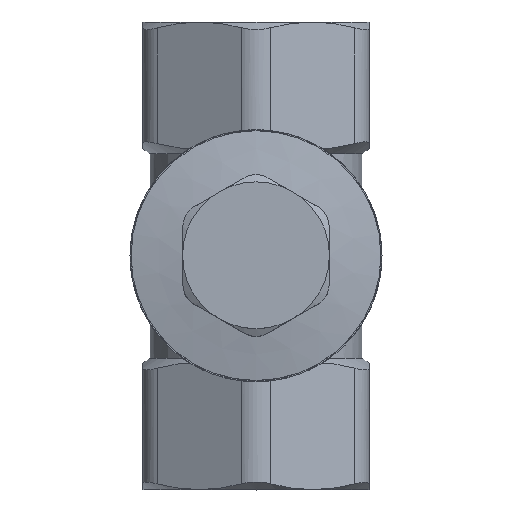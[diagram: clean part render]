
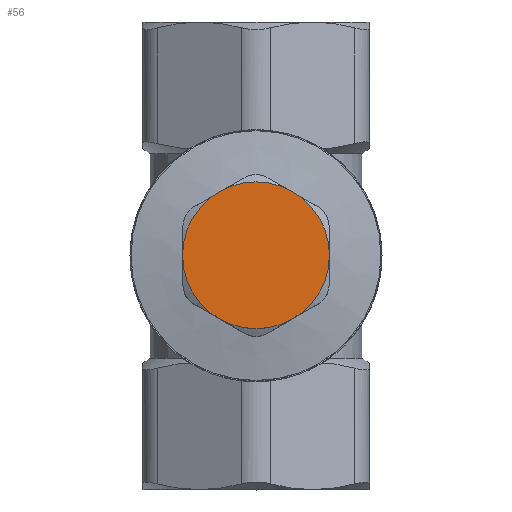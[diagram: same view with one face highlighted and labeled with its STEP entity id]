
A CAD part, top view. The second image highlights one B-rep face of the part: STEP entity #56.
In plain terms, the highlighted planar face has unit normal (0, 0, 1).
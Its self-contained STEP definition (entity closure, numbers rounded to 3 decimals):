
#56=ADVANCED_FACE('',(#505),#507,.T.);
#505=FACE_BOUND('',#506,.T.);
#506=EDGE_LOOP('',(#3805));
#507=PLANE('',#508);
#508=AXIS2_PLACEMENT_3D('',#509,#510,#511);
#509=CARTESIAN_POINT('',(0.,0.,55.5));
#510=DIRECTION('',(0.,0.,1.));
#511=DIRECTION('',(-1.,0.,0.));
#3805=ORIENTED_EDGE('',*,*,#6272,.T.);
#6272=EDGE_CURVE('',#7321,#7321,#7322,.T.);
#7321=VERTEX_POINT('',#9071);
#7322=CIRCLE('',#9072,10.05);
#9071=CARTESIAN_POINT('',(0.,10.05,55.5));
#9072=AXIS2_PLACEMENT_3D('',#9073,#9074,#9075);
#9073=CARTESIAN_POINT('',(0.,0.,55.5));
#9074=DIRECTION('',(0.,0.,1.));
#9075=DIRECTION('',(0.,1.,0.));
